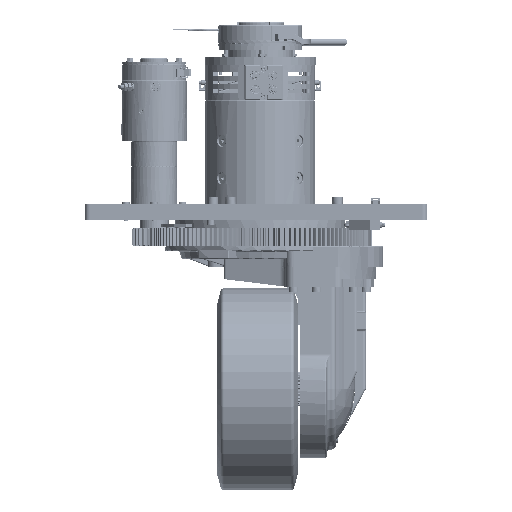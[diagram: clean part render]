
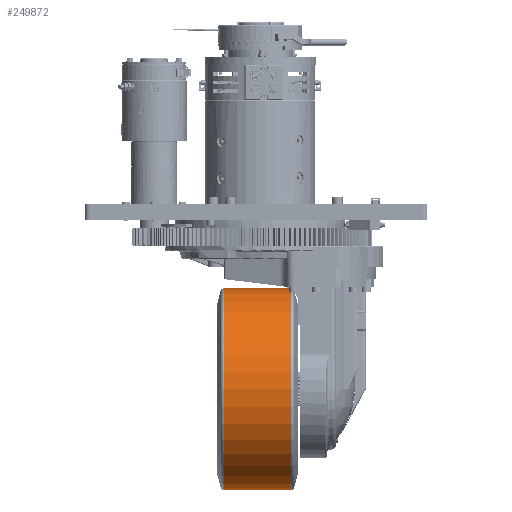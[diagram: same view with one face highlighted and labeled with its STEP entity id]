
A CAD part, front view. The second image highlights one B-rep face of the part: STEP entity #249872.
In plain terms, the highlighted cylindrical face has radius 175 mm (diameter 350 mm), a full revolution.
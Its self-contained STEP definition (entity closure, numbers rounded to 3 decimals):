
#19348=CYLINDRICAL_SURFACE('',#265230,175.);
#26112=LINE('',#371235,#47198);
#47198=VECTOR('',#296340,175.);
#67534=FACE_OUTER_BOUND('',#81334,.T.);
#81334=EDGE_LOOP('',(#176804,#176805,#176806,#176807));
#96427=CIRCLE('',#265229,175.);
#96428=CIRCLE('',#265231,175.);
#109579=VERTEX_POINT('',#371230);
#109580=VERTEX_POINT('',#371234);
#135269=EDGE_CURVE('',#109579,#109579,#96427,.T.);
#135270=EDGE_CURVE('',#109579,#109580,#26112,.T.);
#135271=EDGE_CURVE('',#109580,#109580,#96428,.T.);
#176804=ORIENTED_EDGE('',*,*,#135269,.F.);
#176805=ORIENTED_EDGE('',*,*,#135270,.T.);
#176806=ORIENTED_EDGE('',*,*,#135271,.T.);
#176807=ORIENTED_EDGE('',*,*,#135270,.F.);
#249872=ADVANCED_FACE('',(#67534),#19348,.T.);
#265229=AXIS2_PLACEMENT_3D('',#371232,#296336,#296337);
#265230=AXIS2_PLACEMENT_3D('',#371233,#296338,#296339);
#265231=AXIS2_PLACEMENT_3D('',#371236,#296341,#296342);
#296336=DIRECTION('center_axis',(1.,0.,0.));
#296337=DIRECTION('ref_axis',(0.,0.,
-1.));
#296338=DIRECTION('center_axis',(1.,0.,0.));
#296339=DIRECTION('ref_axis',(0.,0.,
-1.));
#296340=DIRECTION('',(-1.,0.,0.));
#296341=DIRECTION('center_axis',(1.,0.,0.));
#296342=DIRECTION('ref_axis',(0.,0.,
-1.));
#371230=CARTESIAN_POINT('',(40.477,0.,-78.));
#371232=CARTESIAN_POINT('Origin',(40.477,0.,
-253.));
#371233=CARTESIAN_POINT('Origin',(-17.55,0.,
-253.));
#371234=CARTESIAN_POINT('',(-75.577,0.,-78.));
#371235=CARTESIAN_POINT('',(-17.55,0.,-78.));
#371236=CARTESIAN_POINT('Origin',(-75.577,0.,
-253.));
